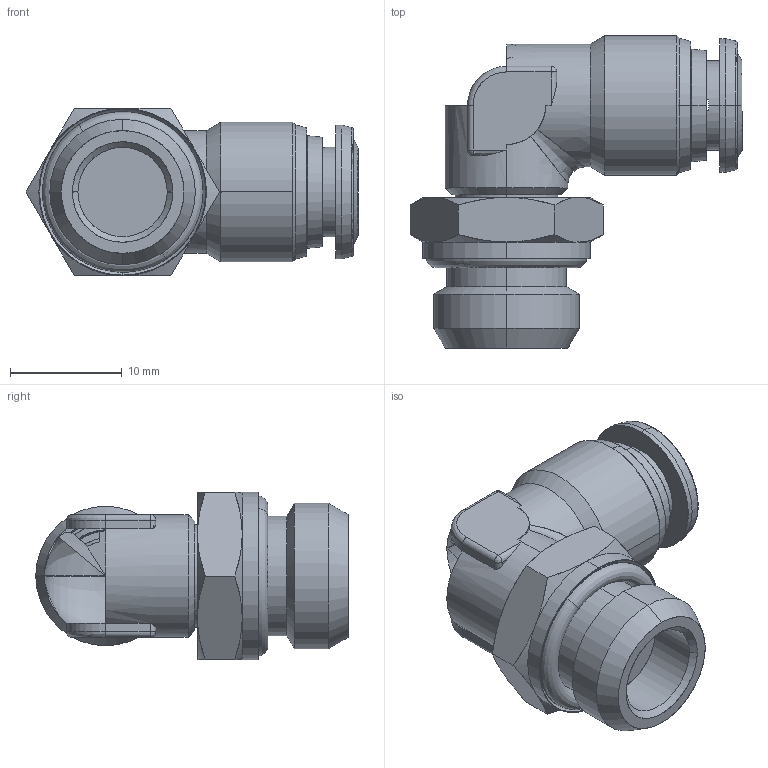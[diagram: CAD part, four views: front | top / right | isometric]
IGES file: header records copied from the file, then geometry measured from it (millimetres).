
Start section: SolidWorks IGES file using analytic representation for surfaces
Global section: file name: K:\Disegni Esecutivi\Serie 60000 inox 316\ASSIEMI_60000\60115\ASSIEMI_PIENI_60115\6011500004.IGS; native system: SolidWorks 2008; preprocessor: SolidWorks 2008; author: cad02; date: 080305.083124; units: millimetre
Bounding box: 29.76 x 28 x 15 mm (x, y, z)
Surface area: 2674.1 mm2 (no closed solid volume)
Topology: 0 solids, 0 shells, 141 faces, 1652 edges, 1642 vertices
Faces by surface type: revolution 88, bspline 53
